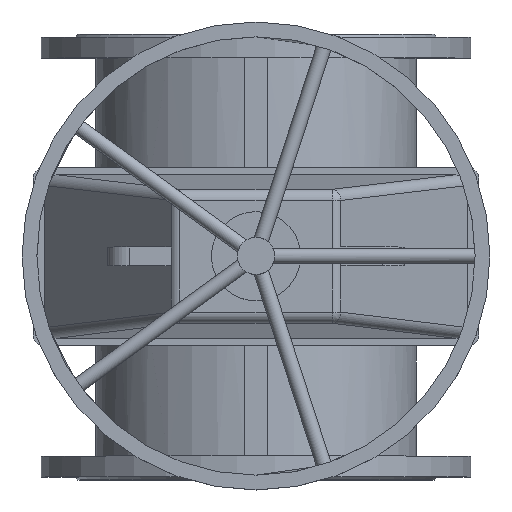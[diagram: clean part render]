
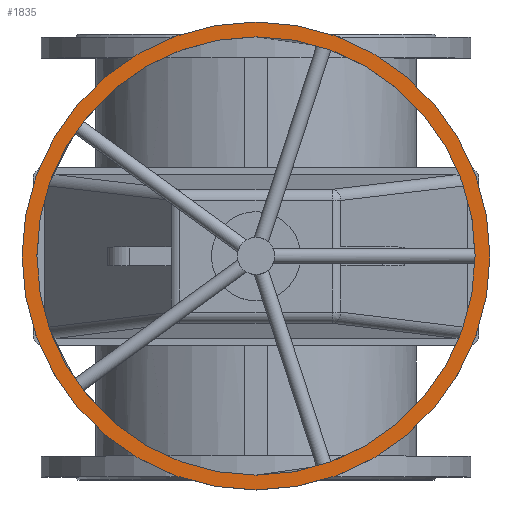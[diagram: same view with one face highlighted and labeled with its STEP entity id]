
A CAD part, top view. The second image highlights one B-rep face of the part: STEP entity #1835.
In plain terms, the highlighted planar face has unit normal (0, 0, 1).
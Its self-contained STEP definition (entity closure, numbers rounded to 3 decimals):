
#1835=ADVANCED_FACE('',(#4340,#4342),#4344,.T.);
#4340=FACE_BOUND('',#4341,.T.);
#4341=EDGE_LOOP('',(#5285));
#4342=FACE_BOUND('',#4343,.T.);
#4343=EDGE_LOOP('',(#5286));
#4344=PLANE('',#4345);
#4345=AXIS2_PLACEMENT_3D('',#4346,#4347,#4348);
#4346=CARTESIAN_POINT('',(0.,0.,950.5));
#4347=DIRECTION('',(0.,0.,1.));
#4348=DIRECTION('',(0.,-1.,0.));
#5285=ORIENTED_EDGE('',*,*,#5751,.T.);
#5286=ORIENTED_EDGE('',*,*,#5749,.T.);
#5749=EDGE_CURVE('',#6531,#6531,#6532,.F.);
#5751=EDGE_CURVE('',#6535,#6535,#6536,.T.);
#6531=VERTEX_POINT('',#10029);
#6532=CIRCLE('',#10030,295.);
#6535=VERTEX_POINT('',#10039);
#6536=CIRCLE('',#10040,315.);
#10029=CARTESIAN_POINT('',(0.,-295.,950.5));
#10030=AXIS2_PLACEMENT_3D('',#10031,#10032,#10033);
#10031=CARTESIAN_POINT('',(0.,0.,950.5));
#10032=DIRECTION('',(0.,0.,1.));
#10033=DIRECTION('',(0.,-1.,0.));
#10039=CARTESIAN_POINT('',(0.,-315.,950.5));
#10040=AXIS2_PLACEMENT_3D('',#10041,#10042,#10043);
#10041=CARTESIAN_POINT('',(0.,0.,950.5));
#10042=DIRECTION('',(0.,0.,1.));
#10043=DIRECTION('',(0.,-1.,0.));
